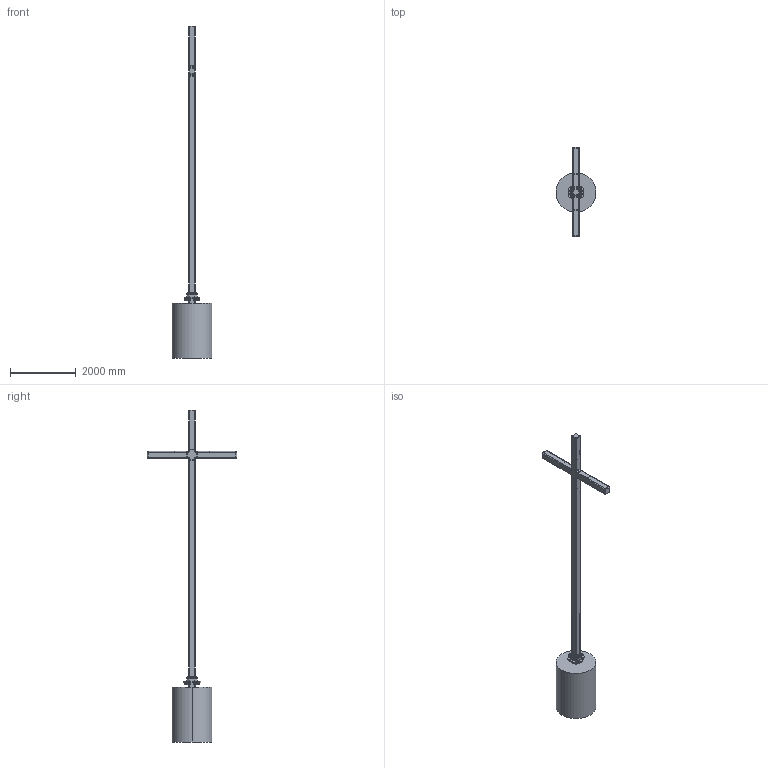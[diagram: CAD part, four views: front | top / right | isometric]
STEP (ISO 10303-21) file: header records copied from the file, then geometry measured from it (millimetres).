
FILE_DESCRIPTION (( 'STEP AP214' ), '1' );
FILE_NAME ('CrosRed ASM 1.STEP', '2025-12-30T16:05:16', ( '' ), ( '' ), 'SwSTEP 2.0', 'SolidWorks 2025', '' );
FILE_SCHEMA (( 'AUTOMOTIVE_DESIGN' ));
Length unit declared in the file: millimetre
Products named in the file (20): CrossBolt ASM 3in 6061AL Redempt; CrosRed Center 1; CrossRebar Vertical 1 Redempt_36IN; CrossBuried beam 1 Redempt; CrosRed Base; CrosRed DecStep 1_Sq base; fastenal_0176235 Redempt; CrosRed ASM 1; CrossRebar ring 1 Redempt; CrosRed Arm; CrossConcrete Base Redempt; CrossRebar Vertical 1 Redempt; CrosRed DecStep 1_Decorative Steps; Shim 0.75x0.875x0.875 AL Redempt; CrossMounting Plates 1 Redempt_Plate top bolt; CrossMounting Plates 1 Redempt_Bottom plate; CrossConcrete base 5000psi Redempt; CrossRebar ring 1 Redempt_36IN; 90670A033_6061 Aluminum Hex Nut Redempt_90670A033; 93286A049_Aluminum Washer Redempt_93286A049
Assembly tree (42 placements, depth 4):
  CrosRed ASM 1
    CrosRed Base
    CrosRed Arm  x3
    CrosRed Center 1
    CrossConcrete Base Redempt
      CrossConcrete base 5000psi Redempt
      CrossRebar ring 1 Redempt  x4
      CrossRebar Vertical 1 Redempt
      CrossBuried beam 1 Redempt
      CrossMounting Plates 1 Redempt_Bottom plate
      CrossMounting Plates 1 Redempt_Plate top bolt  x2
      CrossBolt ASM 3in 6061AL Redempt  x12
        fastenal_0176235 Redempt
        93286A049_Aluminum Washer Redempt_93286A049
        90670A033_6061 Aluminum Hex Nut Redempt_90670A033
        Shim 0.75x0.875x0.875 AL Redempt
      CrossRebar Vertical 1 Redempt_36IN
      CrossRebar ring 1 Redempt_36IN  x5
    CrosRed DecStep 1_Decorative Steps
    CrosRed DecStep 1_Sq base
Bounding box: 1219.2 x 2733.33 x 10130.4 mm (x, y, z)
Volume: 2091447515.1 mm3; surface area: 35504491.8 mm2
Topology: 150 solids, 150 shells, 3767 faces, 9318 edges, 5900 vertices
Faces by surface type: cylinder 1422, plane 1309, cone 536, bspline 264, torus 224, sphere 12
Entity records: 47522 total; most frequent: CARTESIAN_POINT 13515, DIRECTION 6963, ORIENTED_EDGE 6898, EDGE_CURVE 3449, AXIS2_PLACEMENT_3D 2347, LINE 2269, VECTOR 2269, VERTEX_POINT 2257
